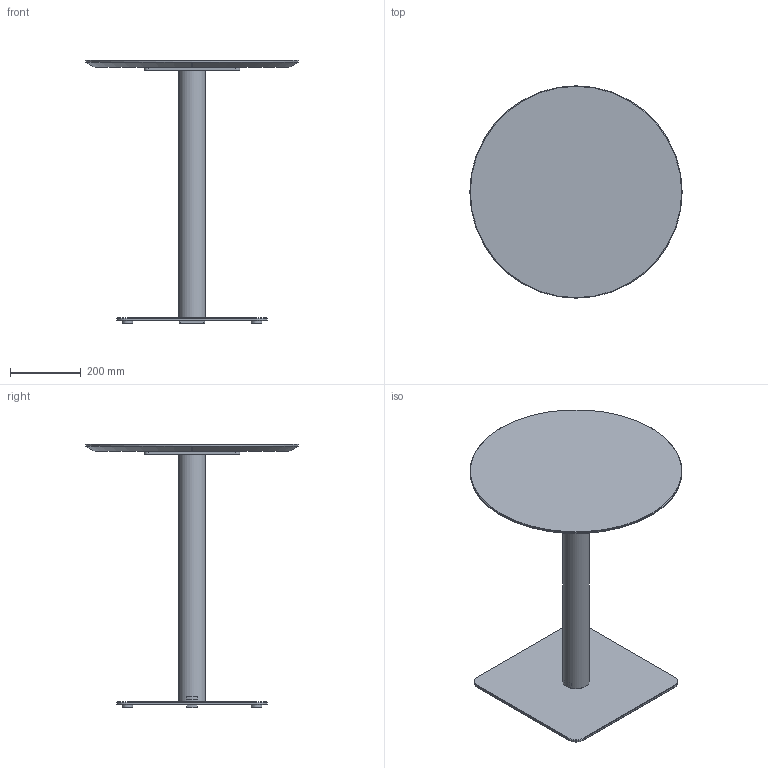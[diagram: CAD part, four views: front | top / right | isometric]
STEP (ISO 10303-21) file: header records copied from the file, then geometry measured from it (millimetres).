
FILE_DESCRIPTION( ('This file contains a STEP AP42 implementation' ,'as created by ZW3D STEP Interface translator.') ,'2;1' );
FILE_NAME( 'Henri - B_Carré - F1 - M5 - 600 x 600 x 750.stp' ,'24 912.162359', (''), ('ZWCAD Software Co.'), 'Version 1.0', 'ZW3D to STEP translator', '' );
FILE_SCHEMA(('AUTOMOTIVE_DESIGN { 1 0 10303 214 1 1 1 1 }'));
Length unit declared in the file: millimetre
Products named in the file (14): 0; PIED BISTROT PARAMETRIQUE_; COLONNE ACIER Ø76 V.02_; TUB-D076-02_; PLA-R76B-01_; CROIX ACIER 370 V.02_; CRX-X370-02_; SOCLE ACIER L 425x425 V.02_; SCL-R425-02_; PLA-R30A-01_; PLA-R30A-01; WUERTH 0276063020 Euro-screw 6.3x2 Verzinkt_; PLATEAU BISTROT PARAMETRIQUE_; insert_m6_13_
Assembly tree (22 placements, depth 3):
  0
  PIED BISTROT PARAMETRIQUE_
    COLONNE ACIER Ø76 V.02_
      TUB-D076-02_
      PLA-R76B-01_  x2
    CROIX ACIER 370 V.02_
      CRX-X370-02_
    SOCLE ACIER L 425x425 V.02_
      SCL-R425-02_
      PLA-R30A-01_
      PLA-R30A-01  x3
    WUERTH 0276063020 Euro-screw 6.3x2 Verzinkt_
    PLATEAU BISTROT PARAMETRIQUE_
      insert_m6_13_  x8
Bounding box: 600 x 600 x 744 mm (x, y, z)
Volume: 7678837.5 mm3; surface area: 1474306.1 mm2
Topology: 19 solids, 19 shells, 537 faces, 1310 edges, 822 vertices
Faces by surface type: plane 262, bspline 121, cylinder 98, cone 55, torus 1
Full cylindrical faces by diameter (mm): 4.88 x1, 6 x8, 6.3 x1, 8 x45, 12 x2, 14 x2, 30 x4, 72 x1, 76 x1
Entity records: 12310 total; most frequent: CARTESIAN_POINT 3396, ORIENTED_EDGE 1624, DIRECTION 1519, EDGE_CURVE 812, VERTEX_POINT 518, VECTOR 513, LINE 513, AXIS2_PLACEMENT_3D 503
